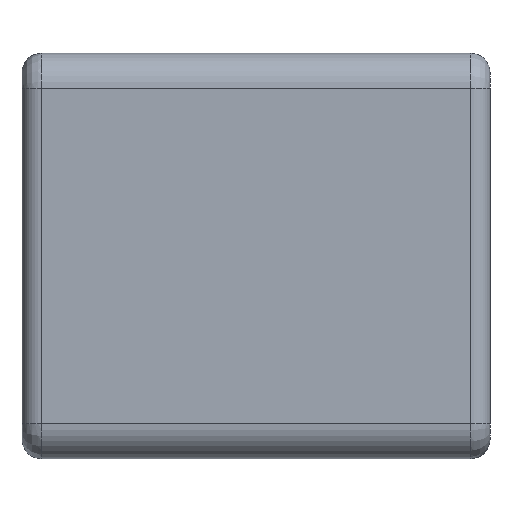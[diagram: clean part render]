
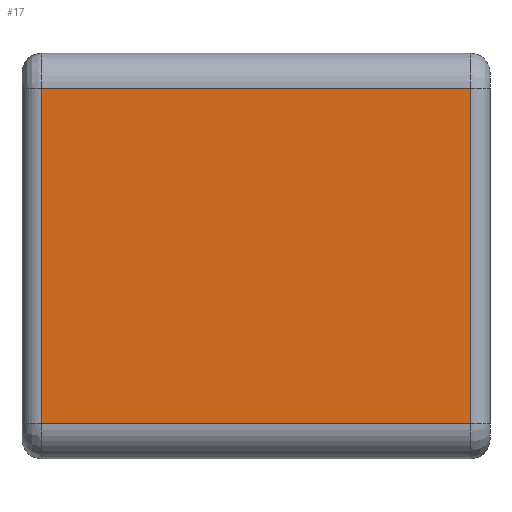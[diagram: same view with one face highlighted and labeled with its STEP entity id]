
A CAD part, front view. The second image highlights one B-rep face of the part: STEP entity #17.
In plain terms, the highlighted planar face has unit normal (0, -1, 0).
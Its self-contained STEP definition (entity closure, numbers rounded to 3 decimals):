
#17 = ADVANCED_FACE('',(#18),#32,.F.);
#18 = FACE_BOUND('',#19,.F.);
#19 = EDGE_LOOP('',(#20,#55,#83,#111));
#20 = ORIENTED_EDGE('',*,*,#21,.T.);
#21 = EDGE_CURVE('',#22,#24,#26,.T.);
#22 = VERTEX_POINT('',#23);
#23 = CARTESIAN_POINT('',(-1.007,-18.994,-7.85));
#24 = VERTEX_POINT('',#25);
#25 = CARTESIAN_POINT('',(4.493,-18.994,-7.85));
#26 = SURFACE_CURVE('',#27,(#31,#43),.PCURVE_S1.);
#27 = LINE('',#28,#29);
#28 = CARTESIAN_POINT('',(-1.257,-18.994,-7.85));
#29 = VECTOR('',#30,1.);
#30 = DIRECTION('',(1.,0.,0.));
#31 = PCURVE('',#32,#37);
#32 = PLANE('',#33);
#33 = AXIS2_PLACEMENT_3D('',#34,#35,#36);
#34 = CARTESIAN_POINT('',(-1.257,-18.994,-7.4));
#35 = DIRECTION('',(-0.,1.,0.));
#36 = DIRECTION('',(0.,0.,-1.));
#37 = DEFINITIONAL_REPRESENTATION('',(#38),#42);
#38 = LINE('',#39,#40);
#39 = CARTESIAN_POINT('',(0.45,0.));
#40 = VECTOR('',#41,1.);
#41 = DIRECTION('',(0.,-1.));
#42 = ( GEOMETRIC_REPRESENTATION_CONTEXT(2) 
PARAMETRIC_REPRESENTATION_CONTEXT() REPRESENTATION_CONTEXT('2D SPACE',''
  ) );
#43 = PCURVE('',#44,#49);
#44 = CYLINDRICAL_SURFACE('',#45,0.45);
#45 = AXIS2_PLACEMENT_3D('',#46,#47,#48);
#46 = CARTESIAN_POINT('',(-1.257,-18.544,-7.85));
#47 = DIRECTION('',(1.,0.,0.));
#48 = DIRECTION('',(0.,-1.,0.));
#49 = DEFINITIONAL_REPRESENTATION('',(#50),#54);
#50 = LINE('',#51,#52);
#51 = CARTESIAN_POINT('',(-0.,0.));
#52 = VECTOR('',#53,1.);
#53 = DIRECTION('',(-0.,1.));
#54 = ( GEOMETRIC_REPRESENTATION_CONTEXT(2) 
PARAMETRIC_REPRESENTATION_CONTEXT() REPRESENTATION_CONTEXT('2D SPACE',''
  ) );
#55 = ORIENTED_EDGE('',*,*,#56,.T.);
#56 = EDGE_CURVE('',#24,#57,#59,.T.);
#57 = VERTEX_POINT('',#58);
#58 = CARTESIAN_POINT('',(4.493,-18.994,-12.15));
#59 = SURFACE_CURVE('',#60,(#64,#71),.PCURVE_S1.);
#60 = LINE('',#61,#62);
#61 = CARTESIAN_POINT('',(4.493,-18.994,-7.85));
#62 = VECTOR('',#63,1.);
#63 = DIRECTION('',(0.,0.,-1.));
#64 = PCURVE('',#32,#65);
#65 = DEFINITIONAL_REPRESENTATION('',(#66),#70);
#66 = LINE('',#67,#68);
#67 = CARTESIAN_POINT('',(0.45,-5.75));
#68 = VECTOR('',#69,1.);
#69 = DIRECTION('',(1.,0.));
#70 = ( GEOMETRIC_REPRESENTATION_CONTEXT(2) 
PARAMETRIC_REPRESENTATION_CONTEXT() REPRESENTATION_CONTEXT('2D SPACE',''
  ) );
#71 = PCURVE('',#72,#77);
#72 = CYLINDRICAL_SURFACE('',#73,0.25);
#73 = AXIS2_PLACEMENT_3D('',#74,#75,#76);
#74 = CARTESIAN_POINT('',(4.493,-18.744,-7.85));
#75 = DIRECTION('',(0.,0.,-1.));
#76 = DIRECTION('',(1.,0.,0.));
#77 = DEFINITIONAL_REPRESENTATION('',(#78),#82);
#78 = LINE('',#79,#80);
#79 = CARTESIAN_POINT('',(1.571,0.));
#80 = VECTOR('',#81,1.);
#81 = DIRECTION('',(0.,1.));
#82 = ( GEOMETRIC_REPRESENTATION_CONTEXT(2) 
PARAMETRIC_REPRESENTATION_CONTEXT() REPRESENTATION_CONTEXT('2D SPACE',''
  ) );
#83 = ORIENTED_EDGE('',*,*,#84,.F.);
#84 = EDGE_CURVE('',#85,#57,#87,.T.);
#85 = VERTEX_POINT('',#86);
#86 = CARTESIAN_POINT('',(-1.007,-18.994,-12.15));
#87 = SURFACE_CURVE('',#88,(#92,#99),.PCURVE_S1.);
#88 = LINE('',#89,#90);
#89 = CARTESIAN_POINT('',(-1.257,-18.994,-12.15));
#90 = VECTOR('',#91,1.);
#91 = DIRECTION('',(1.,0.,0.));
#92 = PCURVE('',#32,#93);
#93 = DEFINITIONAL_REPRESENTATION('',(#94),#98);
#94 = LINE('',#95,#96);
#95 = CARTESIAN_POINT('',(4.75,0.));
#96 = VECTOR('',#97,1.);
#97 = DIRECTION('',(0.,-1.));
#98 = ( GEOMETRIC_REPRESENTATION_CONTEXT(2) 
PARAMETRIC_REPRESENTATION_CONTEXT() REPRESENTATION_CONTEXT('2D SPACE',''
  ) );
#99 = PCURVE('',#100,#105);
#100 = CYLINDRICAL_SURFACE('',#101,0.45);
#101 = AXIS2_PLACEMENT_3D('',#102,#103,#104);
#102 = CARTESIAN_POINT('',(-1.257,-18.544,-12.15));
#103 = DIRECTION('',(1.,0.,0.));
#104 = DIRECTION('',(0.,-1.,0.));
#105 = DEFINITIONAL_REPRESENTATION('',(#106),#110);
#106 = LINE('',#107,#108);
#107 = CARTESIAN_POINT('',(0.,0.));
#108 = VECTOR('',#109,1.);
#109 = DIRECTION('',(0.,1.));
#110 = ( GEOMETRIC_REPRESENTATION_CONTEXT(2) 
PARAMETRIC_REPRESENTATION_CONTEXT() REPRESENTATION_CONTEXT('2D SPACE',''
  ) );
#111 = ORIENTED_EDGE('',*,*,#112,.T.);
#112 = EDGE_CURVE('',#85,#22,#113,.T.);
#113 = SURFACE_CURVE('',#114,(#118,#125),.PCURVE_S1.);
#114 = LINE('',#115,#116);
#115 = CARTESIAN_POINT('',(-1.007,-18.994,-12.15));
#116 = VECTOR('',#117,1.);
#117 = DIRECTION('',(-0.,-0.,1.));
#118 = PCURVE('',#32,#119);
#119 = DEFINITIONAL_REPRESENTATION('',(#120),#124);
#120 = LINE('',#121,#122);
#121 = CARTESIAN_POINT('',(4.75,-0.25));
#122 = VECTOR('',#123,1.);
#123 = DIRECTION('',(-1.,0.));
#124 = ( GEOMETRIC_REPRESENTATION_CONTEXT(2) 
PARAMETRIC_REPRESENTATION_CONTEXT() REPRESENTATION_CONTEXT('2D SPACE',''
  ) );
#125 = PCURVE('',#126,#131);
#126 = CYLINDRICAL_SURFACE('',#127,0.25);
#127 = AXIS2_PLACEMENT_3D('',#128,#129,#130);
#128 = CARTESIAN_POINT('',(-1.007,-18.744,-12.15));
#129 = DIRECTION('',(-0.,-0.,1.));
#130 = DIRECTION('',(-1.,0.,-0.));
#131 = DEFINITIONAL_REPRESENTATION('',(#132),#136);
#132 = LINE('',#133,#134);
#133 = CARTESIAN_POINT('',(1.571,0.));
#134 = VECTOR('',#135,1.);
#135 = DIRECTION('',(0.,1.));
#136 = ( GEOMETRIC_REPRESENTATION_CONTEXT(2) 
PARAMETRIC_REPRESENTATION_CONTEXT() REPRESENTATION_CONTEXT('2D SPACE',''
  ) );
